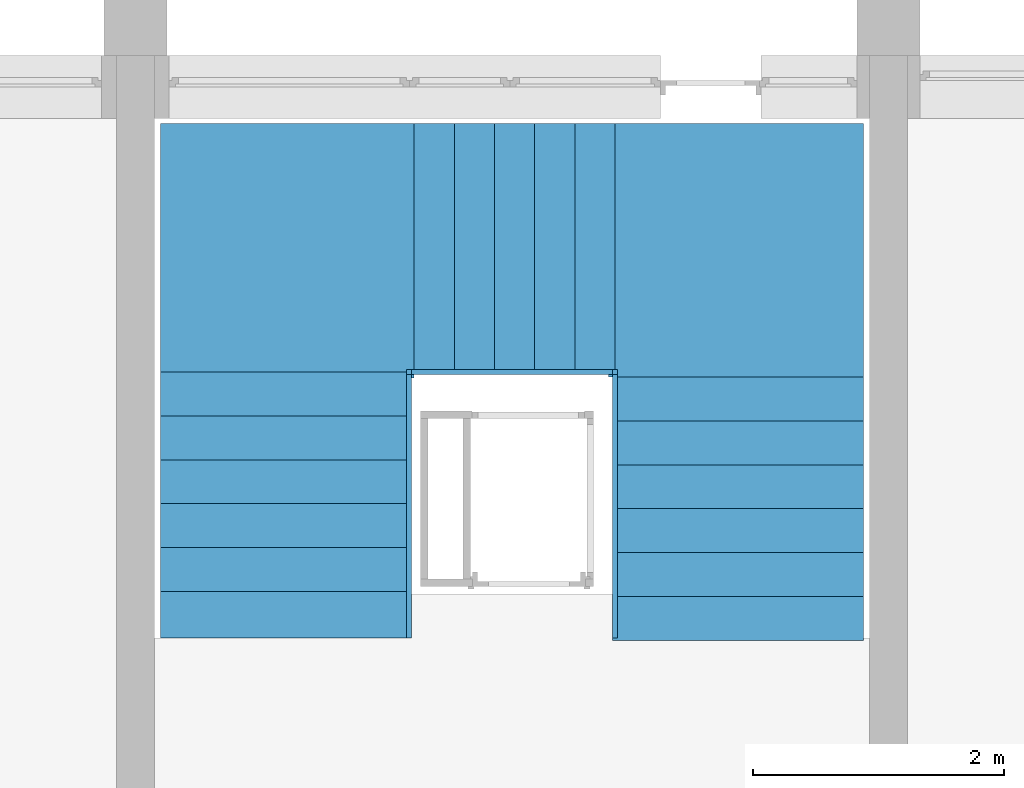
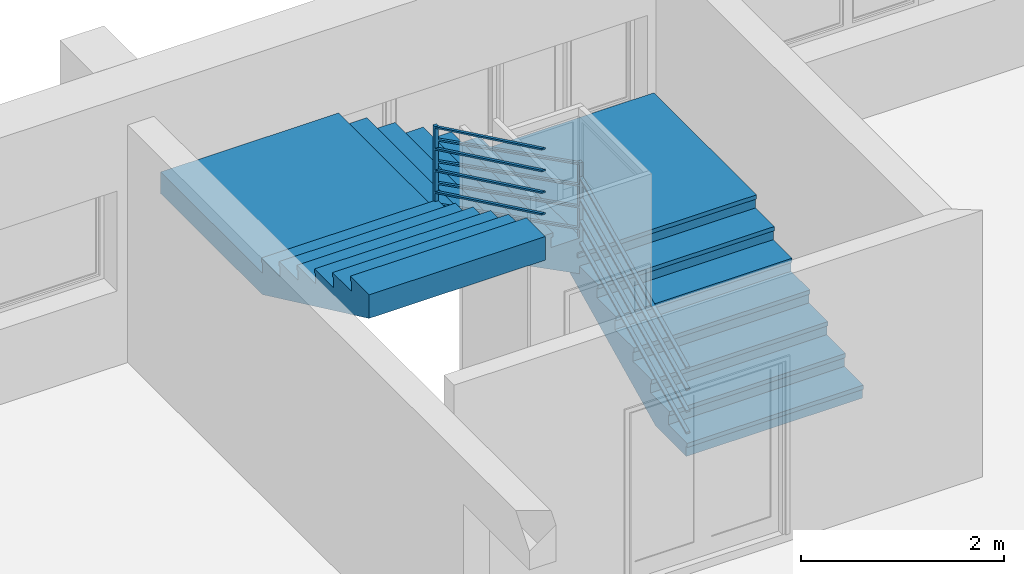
# One storey, part 10 of 10: 1 stair.
"""IFC2X3 building model written with IfcOpenShell, lengths in millimetres."""

from ifc_helpers import new_model, entity, si_unit, converted_unit, money_unit, direction, frame, origin_with_axes, place, context, subcontext, project, spatial, faceted_brep, material, element, save


model = new_model("IFC2X3")

# Units and contexts
model_context = context("Model", 3, precision=1e-05, world=origin_with_axes(), true_north=direction((0.0, 1.0)))
body_context = subcontext(model_context, "Body", "Model", "MODEL_VIEW")
ifc_project = project(units=[si_unit("LENGTHUNIT", "METRE", prefix="MILLI"), si_unit("AREAUNIT", "SQUARE_METRE"), si_unit("VOLUMEUNIT", "CUBIC_METRE"), converted_unit("PLANEANGLEUNIT", "DEGREE", entity("IfcPlaneAngleMeasure", 0.0174532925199), si_unit("PLANEANGLEUNIT", "RADIAN"), dimensions=[0, 0, 0, 0, 0, 0, 0]), si_unit("SOLIDANGLEUNIT", "STERADIAN"), money_unit("USD"), converted_unit("TIMEUNIT", "Year", entity("IfcTimeMeasure", 31556926.0), si_unit("TIMEUNIT", "SECOND"), dimensions=[0, 0, 0, 0, 0, 0, 0]), si_unit("MASSUNIT", "GRAM"), si_unit("THERMODYNAMICTEMPERATUREUNIT", "DEGREE_CELSIUS"), si_unit("LUMINOUSINTENSITYUNIT", "LUMEN")], contexts=[model_context])

# Site, building, storey
site_placement = place(None, origin_with_axes())
site = spatial("IfcSite", under=ifc_project, at=site_placement, Name="Site", CompositionType="ELEMENT")
building_placement = place(site_placement, origin_with_axes())
building = spatial("IfcBuilding", under=site, at=building_placement, Name="Building", CompositionType="ELEMENT")
storey_placement = place(building_placement, origin_with_axes())
storey = spatial("IfcBuildingStorey", under=building, at=storey_placement, Name="2KORRUS", CompositionType="ELEMENT", Elevation=0.0)

# Stair
ifc_material = material(Name="25 %")
stair_placement = place(storey_placement, frame((-6340.29670331, -9280.64352695, 0.0), z_axis=(0.0, 0.0, 1.0), x_axis=(1.0, 0.0, 0.0)))
element("IfcStair", 1, at=stair_placement, inside=storey, material=ifc_material, Name="TRE3", ObjectType="TRE3", ShapeType="NOTDEFINED", context=body_context, shape_type="Brep", body=[
    faceted_brep([(0.0, 599.615, 0.0), (-2000.0, 599.615, 0.0), (-2000.0, 2497.898, 918.947), (0.0, 2497.898, 918.947), (0.0, 30.0, 0.0), (-2000.0, 30.0, 0.0), (-2000.0, 30.0, 118.421), (-2000.0, 380.0, 118.421), (-2000.0, 380.0, 286.842), (-2000.0, 730.0, 286.842), (-2000.0, 730.0, 455.263), (-2000.0, 1080.0, 455.263), (-2000.0, 1080.0, 623.684), (-2000.0, 1430.0, 623.684), (-2000.0, 1430.0, 792.105), (-2000.0, 1780.0, 792.105), (-2000.0, 1780.0, 960.526), (-2000.0, 2130.0, 960.526), (-2000.0, 2130.0, 918.947), (0.0, 2130.0, 918.947), (0.0, 2130.0, 960.526), (0.0, 1780.0, 960.526), (0.0, 1780.0, 792.105), (0.0, 1430.0, 792.105), (0.0, 1430.0, 623.684), (0.0, 1080.0, 623.684), (0.0, 1080.0, 455.263), (0.0, 730.0, 455.263), (0.0, 730.0, 286.842), (0.0, 380.0, 286.842), (0.0, 380.0, 118.421), (0.0, 30.0, 118.421)], [[[0, 1, 2, 3]], [[4, 5, 1, 0]], [[1, 5, 6, 7, 8, 9, 10, 11, 12, 13, 14, 15, 16, 17, 18, 2]], [[3, 2, 18, 19]], [[0, 3, 19, 20, 21, 22, 23, 24, 25, 26, 27, 28, 29, 30, 31, 4]], [[31, 6, 5, 4]], [[30, 7, 6, 31]], [[29, 8, 7, 30]], [[28, 9, 8, 29]], [[27, 10, 9, 28]], [[26, 11, 10, 27]], [[25, 12, 11, 26]], [[24, 13, 12, 25]], [[23, 14, 13, 24]], [[22, 15, 14, 23]], [[21, 16, 15, 22]], [[20, 17, 16, 21]], [[19, 18, 17, 20]]]),
    faceted_brep([(0.0, 0.0, 0.0), (-2000.0, 0.0, 0.0), (-2000.0, 30.0, 0.0), (0.0, 30.0, 0.0), (0.0, 0.0, 118.421), (-2000.0, 0.0, 118.421), (-2000.0, 30.0, 118.421), (0.0, 30.0, 118.421)], [[[0, 1, 2, 3]], [[4, 5, 1, 0]], [[1, 5, 6, 2]], [[3, 2, 6, 7]], [[0, 3, 7, 4]], [[7, 6, 5, 4]]]),
    faceted_brep([(0.0, 350.0, 168.421), (-2000.0, 350.0, 168.421), (-2000.0, 380.0, 168.421), (0.0, 380.0, 168.421), (0.0, 350.0, 286.842), (-2000.0, 350.0, 286.842), (-2000.0, 380.0, 286.842), (0.0, 380.0, 286.842)], [[[0, 1, 2, 3]], [[4, 5, 1, 0]], [[1, 5, 6, 2]], [[3, 2, 6, 7]], [[0, 3, 7, 4]], [[7, 6, 5, 4]]]),
    faceted_brep([(0.0, 700.0, 336.842), (-2000.0, 700.0, 336.842), (-2000.0, 730.0, 336.842), (0.0, 730.0, 336.842), (0.0, 700.0, 455.263), (-2000.0, 700.0, 455.263), (-2000.0, 730.0, 455.263), (0.0, 730.0, 455.263)], [[[0, 1, 2, 3]], [[4, 5, 1, 0]], [[1, 5, 6, 2]], [[3, 2, 6, 7]], [[0, 3, 7, 4]], [[7, 6, 5, 4]]]),
    faceted_brep([(0.0, 1050.0, 505.263), (-2000.0, 1050.0, 505.263), (-2000.0, 1080.0, 505.263), (0.0, 1080.0, 505.263), (0.0, 1050.0, 623.684), (-2000.0, 1050.0, 623.684), (-2000.0, 1080.0, 623.684), (0.0, 1080.0, 623.684)], [[[0, 1, 2, 3]], [[4, 5, 1, 0]], [[1, 5, 6, 2]], [[3, 2, 6, 7]], [[0, 3, 7, 4]], [[7, 6, 5, 4]]]),
    faceted_brep([(0.0, 1400.0, 673.684), (-2000.0, 1400.0, 673.684), (-2000.0, 1430.0, 673.684), (0.0, 1430.0, 673.684), (0.0, 1400.0, 792.105), (-2000.0, 1400.0, 792.105), (-2000.0, 1430.0, 792.105), (0.0, 1430.0, 792.105)], [[[0, 1, 2, 3]], [[4, 5, 1, 0]], [[1, 5, 6, 2]], [[3, 2, 6, 7]], [[0, 3, 7, 4]], [[7, 6, 5, 4]]]),
    faceted_brep([(0.0, 1750.0, 842.105), (-2000.0, 1750.0, 842.105), (-2000.0, 1780.0, 842.105), (0.0, 1780.0, 842.105), (0.0, 1750.0, 960.526), (-2000.0, 1750.0, 960.526), (-2000.0, 1780.0, 960.526), (0.0, 1780.0, 960.526)], [[[0, 1, 2, 3]], [[4, 5, 1, 0]], [[1, 5, 6, 2]], [[3, 2, 6, 7]], [[0, 3, 7, 4]], [[7, 6, 5, 4]]]),
    faceted_brep([(0.0, 2100.0, 1010.526), (-2000.0, 2100.0, 1010.526), (-2000.0, 2130.0, 1010.526), (0.0, 2130.0, 1010.526), (0.0, 2100.0, 1128.947), (-2000.0, 2100.0, 1128.947), (-2000.0, 2130.0, 1128.947), (0.0, 2130.0, 1128.947)], [[[0, 1, 2, 3]], [[4, 5, 1, 0]], [[1, 5, 6, 2]], [[3, 2, 6, 7]], [[0, 3, 7, 4]], [[7, 6, 5, 4]]]),
    faceted_brep([(0.0, 2130.0, 918.947), (0.0, 2130.0, 960.526), (-2000.0, 2130.0, 960.526), (-2000.0, 2130.0, 918.947), (0.0, 2497.898, 918.947), (0.0, 2497.898, 960.526), (0.0, 4100.0, 960.526), (-2000.0, 4100.0, 960.526), (-2000.0, 2497.898, 960.526), (-2000.0, 2497.898, 918.947), (-2000.0, 4100.0, 918.947), (0.0, 4100.0, 918.947)], [[[0, 1, 2, 3]], [[4, 5, 1, 0]], [[1, 5, 6, 7, 8, 2]], [[3, 2, 8, 9]], [[0, 3, 9, 10, 11, 4]], [[11, 6, 5, 4]], [[10, 7, 6, 11]], [[9, 8, 7, 10]]]),
    faceted_brep([(0.0, 2130.0, 960.526), (0.0, 2130.0, 1128.947), (-2000.0, 2130.0, 1128.947), (-2000.0, 2130.0, 960.526), (0.0, 4100.0, 960.526), (0.0, 4100.0, 1128.947), (-2000.0, 4100.0, 1128.947), (-2000.0, 4100.0, 960.526)], [[[0, 1, 2, 3]], [[4, 5, 1, 0]], [[1, 5, 6, 2]], [[3, 2, 6, 7]], [[0, 3, 7, 4]], [[7, 6, 5, 4]]]),
    faceted_brep([(-3967.898, 4100.0, 1929.474), (-3967.898, 2100.0, 1929.474), (-3630.0, 2100.0, 1929.474), (-3630.0, 4100.0, 1929.474), (-2000.0, 4100.0, 918.947), (-2000.0, 2100.0, 918.947), (-2000.0, 2100.0, 1128.947), (-2030.0, 2100.0, 1128.947), (-2030.0, 2100.0, 1297.368), (-2350.0, 2100.0, 1297.368), (-2350.0, 2100.0, 1465.789), (-2670.0, 2100.0, 1465.789), (-2670.0, 2100.0, 1634.211), (-2990.0, 2100.0, 1634.211), (-2990.0, 2100.0, 1802.632), (-3310.0, 2100.0, 1802.632), (-3310.0, 2100.0, 1971.053), (-3630.0, 2100.0, 1971.053), (-3630.0, 4100.0, 1971.053), (-3310.0, 4100.0, 1971.053), (-3310.0, 4100.0, 1802.632), (-2990.0, 4100.0, 1802.632), (-2990.0, 4100.0, 1634.211), (-2670.0, 4100.0, 1634.211), (-2670.0, 4100.0, 1465.789), (-2350.0, 4100.0, 1465.789), (-2350.0, 4100.0, 1297.368), (-2030.0, 4100.0, 1297.368), (-2030.0, 4100.0, 1128.947), (-2000.0, 4100.0, 1128.947)], [[[0, 1, 2, 3]], [[4, 5, 1, 0]], [[1, 5, 6, 7, 8, 9, 10, 11, 12, 13, 14, 15, 16, 17, 2]], [[3, 2, 17, 18]], [[0, 3, 18, 19, 20, 21, 22, 23, 24, 25, 26, 27, 28, 29, 4]], [[29, 6, 5, 4]], [[28, 7, 6, 29]], [[27, 8, 7, 28]], [[26, 9, 8, 27]], [[25, 10, 9, 26]], [[24, 11, 10, 25]], [[23, 12, 11, 24]], [[22, 13, 12, 23]], [[21, 14, 13, 22]], [[20, 15, 14, 21]], [[19, 16, 15, 20]], [[18, 17, 16, 19]]]),
    faceted_brep([(-2000.0, 4100.0, 1178.947), (-2000.0, 2100.0, 1178.947), (-2030.0, 2100.0, 1178.947), (-2030.0, 4100.0, 1178.947), (-2000.0, 4100.0, 1297.368), (-2000.0, 2100.0, 1297.368), (-2030.0, 2100.0, 1297.368), (-2030.0, 4100.0, 1297.368)], [[[0, 1, 2, 3]], [[4, 5, 1, 0]], [[1, 5, 6, 2]], [[3, 2, 6, 7]], [[0, 3, 7, 4]], [[7, 6, 5, 4]]]),
    faceted_brep([(-2320.0, 4100.0, 1347.368), (-2320.0, 2100.0, 1347.368), (-2350.0, 2100.0, 1347.368), (-2350.0, 4100.0, 1347.368), (-2320.0, 4100.0, 1465.789), (-2320.0, 2100.0, 1465.789), (-2350.0, 2100.0, 1465.789), (-2350.0, 4100.0, 1465.789)], [[[0, 1, 2, 3]], [[4, 5, 1, 0]], [[1, 5, 6, 2]], [[3, 2, 6, 7]], [[0, 3, 7, 4]], [[7, 6, 5, 4]]]),
    faceted_brep([(-2640.0, 4100.0, 1515.789), (-2640.0, 2100.0, 1515.789), (-2670.0, 2100.0, 1515.789), (-2670.0, 4100.0, 1515.789), (-2640.0, 4100.0, 1634.211), (-2640.0, 2100.0, 1634.211), (-2670.0, 2100.0, 1634.211), (-2670.0, 4100.0, 1634.211)], [[[0, 1, 2, 3]], [[4, 5, 1, 0]], [[1, 5, 6, 2]], [[3, 2, 6, 7]], [[0, 3, 7, 4]], [[7, 6, 5, 4]]]),
    faceted_brep([(-2960.0, 4100.0, 1684.211), (-2960.0, 2100.0, 1684.211), (-2990.0, 2100.0, 1684.211), (-2990.0, 4100.0, 1684.211), (-2960.0, 4100.0, 1802.632), (-2960.0, 2100.0, 1802.632), (-2990.0, 2100.0, 1802.632), (-2990.0, 4100.0, 1802.632)], [[[0, 1, 2, 3]], [[4, 5, 1, 0]], [[1, 5, 6, 2]], [[3, 2, 6, 7]], [[0, 3, 7, 4]], [[7, 6, 5, 4]]]),
    faceted_brep([(-3280.0, 4100.0, 1852.632), (-3280.0, 2100.0, 1852.632), (-3310.0, 2100.0, 1852.632), (-3310.0, 4100.0, 1852.632), (-3280.0, 4100.0, 1971.053), (-3280.0, 2100.0, 1971.053), (-3310.0, 2100.0, 1971.053), (-3310.0, 4100.0, 1971.053)], [[[0, 1, 2, 3]], [[4, 5, 1, 0]], [[1, 5, 6, 2]], [[3, 2, 6, 7]], [[0, 3, 7, 4]], [[7, 6, 5, 4]]]),
    faceted_brep([(-3600.0, 4100.0, 2021.053), (-3600.0, 2100.0, 2021.053), (-3630.0, 2100.0, 2021.053), (-3630.0, 4100.0, 2021.053), (-3600.0, 4100.0, 2139.474), (-3600.0, 2100.0, 2139.474), (-3630.0, 2100.0, 2139.474), (-3630.0, 4100.0, 2139.474)], [[[0, 1, 2, 3]], [[4, 5, 1, 0]], [[1, 5, 6, 2]], [[3, 2, 6, 7]], [[0, 3, 7, 4]], [[7, 6, 5, 4]]]),
    faceted_brep([(-3630.0, 4100.0, 1929.474), (-3630.0, 4100.0, 1971.053), (-3630.0, 2100.0, 1971.053), (-3630.0, 2100.0, 1929.474), (-3950.0, 4100.0, 1929.474), (-3950.0, 4100.0, 1971.053), (-5600.0, 4100.0, 1971.053), (-5600.0, 2100.0, 1971.053), (-3950.0, 2100.0, 1971.053), (-3950.0, 2100.0, 1929.474), (-5600.0, 2100.0, 1929.474), (-5600.0, 4100.0, 1929.474)], [[[0, 1, 2, 3]], [[4, 5, 1, 0]], [[1, 5, 6, 7, 8, 2]], [[3, 2, 8, 9]], [[0, 3, 9, 10, 11, 4]], [[11, 6, 5, 4]], [[10, 7, 6, 11]], [[9, 8, 7, 10]]]),
    faceted_brep([(-3630.0, 4100.0, 1971.053), (-3630.0, 4100.0, 2139.474), (-3630.0, 2100.0, 2139.474), (-3630.0, 2100.0, 1971.053), (-5600.0, 4100.0, 1971.053), (-5600.0, 4100.0, 2139.474), (-5600.0, 2100.0, 2139.474), (-5600.0, 2100.0, 1971.053)], [[[0, 1, 2, 3]], [[4, 5, 1, 0]], [[1, 5, 6, 2]], [[3, 2, 6, 7]], [[0, 3, 7, 4]], [[7, 6, 5, 4]]]),
    faceted_brep([(-5600.0, 0.0, 2916.951), (-3600.0, 0.0, 2916.951), (-3600.0, 0.0, 3150.0), (-5600.0, 0.0, 3150.0), (-5600.0, 2100.0, 1929.474), (-3600.0, 2100.0, 1929.474), (-3600.0, 2100.0, 2139.474), (-3600.0, 2070.0, 2139.474), (-3600.0, 2070.0, 2307.895), (-3600.0, 1720.0, 2307.895), (-3600.0, 1720.0, 2476.316), (-3600.0, 1370.0, 2476.316), (-3600.0, 1370.0, 2644.737), (-3600.0, 1020.0, 2644.737), (-3600.0, 1020.0, 2813.158), (-3600.0, 670.0, 2813.158), (-3600.0, 670.0, 2981.579), (-3600.0, 320.0, 2981.579), (-3600.0, 320.0, 3150.0), (-5600.0, 320.0, 3150.0), (-5600.0, 320.0, 2981.579), (-5600.0, 670.0, 2981.579), (-5600.0, 670.0, 2813.158), (-5600.0, 1020.0, 2813.158), (-5600.0, 1020.0, 2644.737), (-5600.0, 1370.0, 2644.737), (-5600.0, 1370.0, 2476.316), (-5600.0, 1720.0, 2476.316), (-5600.0, 1720.0, 2307.895), (-5600.0, 2070.0, 2307.895), (-5600.0, 2070.0, 2139.474), (-5600.0, 2100.0, 2139.474)], [[[0, 1, 2, 3]], [[4, 5, 1, 0]], [[1, 5, 6, 7, 8, 9, 10, 11, 12, 13, 14, 15, 16, 17, 18, 2]], [[3, 2, 18, 19]], [[0, 3, 19, 20, 21, 22, 23, 24, 25, 26, 27, 28, 29, 30, 31, 4]], [[31, 6, 5, 4]], [[30, 7, 6, 31]], [[29, 8, 7, 30]], [[28, 9, 8, 29]], [[27, 10, 9, 28]], [[26, 11, 10, 27]], [[25, 12, 11, 26]], [[24, 13, 12, 25]], [[23, 14, 13, 24]], [[22, 15, 14, 23]], [[21, 16, 15, 22]], [[20, 17, 16, 21]], [[19, 18, 17, 20]]]),
    faceted_brep([(-5600.0, 2100.0, 2189.474), (-3600.0, 2100.0, 2189.474), (-3600.0, 2070.0, 2189.474), (-5600.0, 2070.0, 2189.474), (-5600.0, 2100.0, 2307.895), (-3600.0, 2100.0, 2307.895), (-3600.0, 2070.0, 2307.895), (-5600.0, 2070.0, 2307.895)], [[[0, 1, 2, 3]], [[4, 5, 1, 0]], [[1, 5, 6, 2]], [[3, 2, 6, 7]], [[0, 3, 7, 4]], [[7, 6, 5, 4]]]),
    faceted_brep([(-5600.0, 1750.0, 2357.895), (-3600.0, 1750.0, 2357.895), (-3600.0, 1720.0, 2357.895), (-5600.0, 1720.0, 2357.895), (-5600.0, 1750.0, 2476.316), (-3600.0, 1750.0, 2476.316), (-3600.0, 1720.0, 2476.316), (-5600.0, 1720.0, 2476.316)], [[[0, 1, 2, 3]], [[4, 5, 1, 0]], [[1, 5, 6, 2]], [[3, 2, 6, 7]], [[0, 3, 7, 4]], [[7, 6, 5, 4]]]),
    faceted_brep([(-5600.0, 1400.0, 2526.316), (-3600.0, 1400.0, 2526.316), (-3600.0, 1370.0, 2526.316), (-5600.0, 1370.0, 2526.316), (-5600.0, 1400.0, 2644.737), (-3600.0, 1400.0, 2644.737), (-3600.0, 1370.0, 2644.737), (-5600.0, 1370.0, 2644.737)], [[[0, 1, 2, 3]], [[4, 5, 1, 0]], [[1, 5, 6, 2]], [[3, 2, 6, 7]], [[0, 3, 7, 4]], [[7, 6, 5, 4]]]),
    faceted_brep([(-5600.0, 1050.0, 2694.737), (-3600.0, 1050.0, 2694.737), (-3600.0, 1020.0, 2694.737), (-5600.0, 1020.0, 2694.737), (-5600.0, 1050.0, 2813.158), (-3600.0, 1050.0, 2813.158), (-3600.0, 1020.0, 2813.158), (-5600.0, 1020.0, 2813.158)], [[[0, 1, 2, 3]], [[4, 5, 1, 0]], [[1, 5, 6, 2]], [[3, 2, 6, 7]], [[0, 3, 7, 4]], [[7, 6, 5, 4]]]),
    faceted_brep([(-5600.0, 700.0, 2863.158), (-3600.0, 700.0, 2863.158), (-3600.0, 670.0, 2863.158), (-5600.0, 670.0, 2863.158), (-5600.0, 700.0, 2981.579), (-3600.0, 700.0, 2981.579), (-3600.0, 670.0, 2981.579), (-5600.0, 670.0, 2981.579)], [[[0, 1, 2, 3]], [[4, 5, 1, 0]], [[1, 5, 6, 2]], [[3, 2, 6, 7]], [[0, 3, 7, 4]], [[7, 6, 5, 4]]]),
    faceted_brep([(-5600.0, 350.0, 3031.579), (-3600.0, 350.0, 3031.579), (-3600.0, 320.0, 3031.579), (-5600.0, 320.0, 3031.579), (-5600.0, 350.0, 3150.0), (-3600.0, 350.0, 3150.0), (-3600.0, 320.0, 3150.0), (-5600.0, 320.0, 3150.0)], [[[0, 1, 2, 3]], [[4, 5, 1, 0]], [[1, 5, 6, 2]], [[3, 2, 6, 7]], [[0, 3, 7, 4]], [[7, 6, 5, 4]]]),
    faceted_brep([(-2000.0, -20.0, 118.421), (-2000.0, 380.0, 118.421), (0.0, 380.0, 118.421), (0.0, -20.0, 118.421), (-2000.0, -20.0, 168.421), (-2000.0, 380.0, 168.421), (0.0, 380.0, 168.421), (0.0, -20.0, 168.421)], [[[0, 1, 2, 3]], [[0, 4, 5, 1]], [[1, 5, 6, 2]], [[2, 6, 7, 3]], [[3, 7, 4, 0]], [[7, 6, 5, 4]]]),
    faceted_brep([(-2000.0, 330.0, 286.842), (-2000.0, 730.0, 286.842), (0.0, 730.0, 286.842), (0.0, 330.0, 286.842), (-2000.0, 330.0, 336.842), (-2000.0, 730.0, 336.842), (0.0, 730.0, 336.842), (0.0, 330.0, 336.842)], [[[0, 1, 2, 3]], [[0, 4, 5, 1]], [[1, 5, 6, 2]], [[2, 6, 7, 3]], [[3, 7, 4, 0]], [[7, 6, 5, 4]]]),
    faceted_brep([(-2000.0, 680.0, 455.263), (-2000.0, 1080.0, 455.263), (0.0, 1080.0, 455.263), (0.0, 680.0, 455.263), (-2000.0, 680.0, 505.263), (-2000.0, 1080.0, 505.263), (0.0, 1080.0, 505.263), (0.0, 680.0, 505.263)], [[[0, 1, 2, 3]], [[0, 4, 5, 1]], [[1, 5, 6, 2]], [[2, 6, 7, 3]], [[3, 7, 4, 0]], [[7, 6, 5, 4]]]),
    faceted_brep([(-2000.0, 1030.0, 623.684), (-2000.0, 1430.0, 623.684), (0.0, 1430.0, 623.684), (0.0, 1030.0, 623.684), (-2000.0, 1030.0, 673.684), (-2000.0, 1430.0, 673.684), (0.0, 1430.0, 673.684), (0.0, 1030.0, 673.684)], [[[0, 1, 2, 3]], [[0, 4, 5, 1]], [[1, 5, 6, 2]], [[2, 6, 7, 3]], [[3, 7, 4, 0]], [[7, 6, 5, 4]]]),
    faceted_brep([(-2000.0, 1380.0, 792.105), (-2000.0, 1780.0, 792.105), (0.0, 1780.0, 792.105), (0.0, 1380.0, 792.105), (-2000.0, 1380.0, 842.105), (-2000.0, 1780.0, 842.105), (0.0, 1780.0, 842.105), (0.0, 1380.0, 842.105)], [[[0, 1, 2, 3]], [[0, 4, 5, 1]], [[1, 5, 6, 2]], [[2, 6, 7, 3]], [[3, 7, 4, 0]], [[7, 6, 5, 4]]]),
    faceted_brep([(-2000.0, 1730.0, 960.526), (-2000.0, 2130.0, 960.526), (0.0, 2130.0, 960.526), (0.0, 1730.0, 960.526), (-2000.0, 1730.0, 1010.526), (-2000.0, 2130.0, 1010.526), (0.0, 2130.0, 1010.526), (0.0, 1730.0, 1010.526)], [[[0, 1, 2, 3]], [[0, 4, 5, 1]], [[1, 5, 6, 2]], [[2, 6, 7, 3]], [[3, 7, 4, 0]], [[7, 6, 5, 4]]]),
    faceted_brep([(-2030.0, 2080.0, 1128.947), (-2030.0, 4100.0, 1128.947), (0.0, 4100.0, 1128.947), (0.0, 2080.0, 1128.947), (-2030.0, 2080.0, 1178.947), (-2030.0, 4100.0, 1178.947), (0.0, 4100.0, 1178.947), (0.0, 2080.0, 1178.947)], [[[0, 1, 2, 3]], [[0, 4, 5, 1]], [[1, 5, 6, 2]], [[2, 6, 7, 3]], [[3, 7, 4, 0]], [[7, 6, 5, 4]]]),
    faceted_brep([(-1980.0, 2100.0, 1297.368), (-2350.0, 2100.0, 1297.368), (-2350.0, 4100.0, 1297.368), (-1980.0, 4100.0, 1297.368), (-1980.0, 2100.0, 1347.368), (-2350.0, 2100.0, 1347.368), (-2350.0, 4100.0, 1347.368), (-1980.0, 4100.0, 1347.368)], [[[0, 1, 2, 3]], [[0, 4, 5, 1]], [[1, 5, 6, 2]], [[2, 6, 7, 3]], [[3, 7, 4, 0]], [[7, 6, 5, 4]]]),
    faceted_brep([(-2300.0, 2100.0, 1465.789), (-2670.0, 2100.0, 1465.789), (-2670.0, 4100.0, 1465.789), (-2300.0, 4100.0, 1465.789), (-2300.0, 2100.0, 1515.789), (-2670.0, 2100.0, 1515.789), (-2670.0, 4100.0, 1515.789), (-2300.0, 4100.0, 1515.789)], [[[0, 1, 2, 3]], [[0, 4, 5, 1]], [[1, 5, 6, 2]], [[2, 6, 7, 3]], [[3, 7, 4, 0]], [[7, 6, 5, 4]]]),
    faceted_brep([(-2620.0, 2100.0, 1634.211), (-2990.0, 2100.0, 1634.211), (-2990.0, 4100.0, 1634.211), (-2620.0, 4100.0, 1634.211), (-2620.0, 2100.0, 1684.211), (-2990.0, 2100.0, 1684.211), (-2990.0, 4100.0, 1684.211), (-2620.0, 4100.0, 1684.211)], [[[0, 1, 2, 3]], [[0, 4, 5, 1]], [[1, 5, 6, 2]], [[2, 6, 7, 3]], [[3, 7, 4, 0]], [[7, 6, 5, 4]]]),
    faceted_brep([(-2940.0, 2100.0, 1802.632), (-3310.0, 2100.0, 1802.632), (-3310.0, 4100.0, 1802.632), (-2940.0, 4100.0, 1802.632), (-2940.0, 2100.0, 1852.632), (-3310.0, 2100.0, 1852.632), (-3310.0, 4100.0, 1852.632), (-2940.0, 4100.0, 1852.632)], [[[0, 1, 2, 3]], [[0, 4, 5, 1]], [[1, 5, 6, 2]], [[2, 6, 7, 3]], [[3, 7, 4, 0]], [[7, 6, 5, 4]]]),
    faceted_brep([(-3260.0, 2100.0, 1971.053), (-3630.0, 2100.0, 1971.053), (-3630.0, 4100.0, 1971.053), (-3260.0, 4100.0, 1971.053), (-3260.0, 2100.0, 2021.053), (-3630.0, 2100.0, 2021.053), (-3630.0, 4100.0, 2021.053), (-3260.0, 4100.0, 2021.053)], [[[0, 1, 2, 3]], [[0, 4, 5, 1]], [[1, 5, 6, 2]], [[2, 6, 7, 3]], [[3, 7, 4, 0]], [[7, 6, 5, 4]]]),
    faceted_brep([(-5600.0, 2070.0, 2139.474), (-5600.0, 4100.0, 2139.474), (-3580.0, 4100.0, 2139.474), (-3580.0, 2070.0, 2139.474), (-5600.0, 2070.0, 2189.474), (-5600.0, 4100.0, 2189.474), (-3580.0, 4100.0, 2189.474), (-3580.0, 2070.0, 2189.474)], [[[0, 1, 2, 3]], [[0, 4, 5, 1]], [[1, 5, 6, 2]], [[2, 6, 7, 3]], [[3, 7, 4, 0]], [[7, 6, 5, 4]]]),
    faceted_brep([(-3600.0, 2120.0, 2307.895), (-3600.0, 1720.0, 2307.895), (-5600.0, 1720.0, 2307.895), (-5600.0, 2120.0, 2307.895), (-3600.0, 2120.0, 2357.895), (-3600.0, 1720.0, 2357.895), (-5600.0, 1720.0, 2357.895), (-5600.0, 2120.0, 2357.895)], [[[0, 1, 2, 3]], [[0, 4, 5, 1]], [[1, 5, 6, 2]], [[2, 6, 7, 3]], [[3, 7, 4, 0]], [[7, 6, 5, 4]]]),
    faceted_brep([(-3600.0, 1770.0, 2476.316), (-3600.0, 1370.0, 2476.316), (-5600.0, 1370.0, 2476.316), (-5600.0, 1770.0, 2476.316), (-3600.0, 1770.0, 2526.316), (-3600.0, 1370.0, 2526.316), (-5600.0, 1370.0, 2526.316), (-5600.0, 1770.0, 2526.316)], [[[0, 1, 2, 3]], [[0, 4, 5, 1]], [[1, 5, 6, 2]], [[2, 6, 7, 3]], [[3, 7, 4, 0]], [[7, 6, 5, 4]]]),
    faceted_brep([(-3600.0, 1420.0, 2644.737), (-3600.0, 1020.0, 2644.737), (-5600.0, 1020.0, 2644.737), (-5600.0, 1420.0, 2644.737), (-3600.0, 1420.0, 2694.737), (-3600.0, 1020.0, 2694.737), (-5600.0, 1020.0, 2694.737), (-5600.0, 1420.0, 2694.737)], [[[0, 1, 2, 3]], [[0, 4, 5, 1]], [[1, 5, 6, 2]], [[2, 6, 7, 3]], [[3, 7, 4, 0]], [[7, 6, 5, 4]]]),
    faceted_brep([(-3600.0, 1070.0, 2813.158), (-3600.0, 670.0, 2813.158), (-5600.0, 670.0, 2813.158), (-5600.0, 1070.0, 2813.158), (-3600.0, 1070.0, 2863.158), (-3600.0, 670.0, 2863.158), (-5600.0, 670.0, 2863.158), (-5600.0, 1070.0, 2863.158)], [[[0, 1, 2, 3]], [[0, 4, 5, 1]], [[1, 5, 6, 2]], [[2, 6, 7, 3]], [[3, 7, 4, 0]], [[7, 6, 5, 4]]]),
    faceted_brep([(-3600.0, 720.0, 2981.579), (-3600.0, 320.0, 2981.579), (-5600.0, 320.0, 2981.579), (-5600.0, 720.0, 2981.579), (-3600.0, 720.0, 3031.579), (-3600.0, 320.0, 3031.579), (-5600.0, 320.0, 3031.579), (-5600.0, 720.0, 3031.579)], [[[0, 1, 2, 3]], [[0, 4, 5, 1]], [[1, 5, 6, 2]], [[2, 6, 7, 3]], [[3, 7, 4, 0]], [[7, 6, 5, 4]]]),
    faceted_brep([(-3600.0, 370.0, 3150.0), (-3600.0, 0.0, 3150.0), (-5600.0, 0.0, 3150.0), (-5600.0, 370.0, 3150.0), (-3600.0, 370.0, 3200.0), (-3600.0, 0.0, 3200.0), (-5600.0, 0.0, 3200.0), (-5600.0, 370.0, 3200.0)], [[[0, 1, 2, 3]], [[0, 4, 5, 1]], [[1, 5, 6, 2]], [[2, 6, 7, 3]], [[3, 7, 4, 0]], [[7, 6, 5, 4]]]),
    faceted_brep([(-1960.0, 0.0, 268.421), (-2000.0, 0.0, 268.421), (-2000.0, 2100.0, 1278.947), (-1960.0, 2100.0, 1278.947), (-1960.0, 0.0, 288.421), (-2000.0, 0.0, 288.421), (-2000.0, 2100.0, 1298.947), (-1960.0, 2100.0, 1298.947)], [[[0, 1, 2, 3]], [[4, 5, 1, 0]], [[1, 5, 6, 2]], [[3, 2, 6, 7]], [[0, 3, 7, 4]], [[7, 6, 5, 4]]]),
    faceted_brep([(-1960.0, 0.0, 528.421), (-2000.0, 0.0, 528.421), (-2000.0, 2100.0, 1538.947), (-1960.0, 2100.0, 1538.947), (-1960.0, 0.0, 548.421), (-2000.0, 0.0, 548.421), (-2000.0, 2100.0, 1558.947), (-1960.0, 2100.0, 1558.947)], [[[0, 1, 2, 3]], [[4, 5, 1, 0]], [[1, 5, 6, 2]], [[3, 2, 6, 7]], [[0, 3, 7, 4]], [[7, 6, 5, 4]]]),
    faceted_brep([(-1960.0, 0.0, 788.421), (-2000.0, 0.0, 788.421), (-2000.0, 2100.0, 1798.947), (-1960.0, 2100.0, 1798.947), (-1960.0, 0.0, 808.421), (-2000.0, 0.0, 808.421), (-2000.0, 2100.0, 1818.947), (-1960.0, 2100.0, 1818.947)], [[[0, 1, 2, 3]], [[4, 5, 1, 0]], [[1, 5, 6, 2]], [[3, 2, 6, 7]], [[0, 3, 7, 4]], [[7, 6, 5, 4]]]),
    faceted_brep([(-1960.0, 0.0, 1048.421), (-2000.0, 0.0, 1048.421), (-2000.0, 2100.0, 2058.947), (-1960.0, 2100.0, 2058.947), (-1960.0, 0.0, 1068.421), (-2000.0, 0.0, 1068.421), (-2000.0, 2100.0, 2078.947), (-1960.0, 2100.0, 2078.947)], [[[0, 1, 2, 3]], [[4, 5, 1, 0]], [[1, 5, 6, 2]], [[3, 2, 6, 7]], [[0, 3, 7, 4]], [[7, 6, 5, 4]]]),
    faceted_brep([(-2000.0, 2100.0, 1178.947), (-2000.0, 2140.0, 1178.947), (-1960.0, 2140.0, 1178.947), (-1960.0, 2100.0, 1178.947), (-2000.0, 2100.0, 2247.368), (-2000.0, 2140.0, 2247.368), (-1960.0, 2140.0, 2247.368), (-1960.0, 2100.0, 2247.368)], [[[0, 1, 2, 3]], [[0, 4, 5, 1]], [[1, 5, 6, 2]], [[2, 6, 7, 3]], [[3, 7, 4, 0]], [[7, 6, 5, 4]]]),
    faceted_brep([(-2000.0, 2140.0, 1447.368), (-2000.0, 2100.0, 1447.368), (-3600.0, 2100.0, 2289.474), (-3600.0, 2140.0, 2289.474), (-2000.0, 2140.0, 1467.368), (-2000.0, 2100.0, 1467.368), (-3600.0, 2100.0, 2309.474), (-3600.0, 2140.0, 2309.474)], [[[0, 1, 2, 3]], [[4, 5, 1, 0]], [[1, 5, 6, 2]], [[3, 2, 6, 7]], [[0, 3, 7, 4]], [[7, 6, 5, 4]]]),
    faceted_brep([(-2000.0, 2140.0, 1707.368), (-2000.0, 2100.0, 1707.368), (-3600.0, 2100.0, 2549.474), (-3600.0, 2140.0, 2549.474), (-2000.0, 2140.0, 1727.368), (-2000.0, 2100.0, 1727.368), (-3600.0, 2100.0, 2569.474), (-3600.0, 2140.0, 2569.474)], [[[0, 1, 2, 3]], [[4, 5, 1, 0]], [[1, 5, 6, 2]], [[3, 2, 6, 7]], [[0, 3, 7, 4]], [[7, 6, 5, 4]]]),
    faceted_brep([(-2000.0, 2140.0, 1967.368), (-2000.0, 2100.0, 1967.368), (-3600.0, 2100.0, 2809.474), (-3600.0, 2140.0, 2809.474), (-2000.0, 2140.0, 1987.368), (-2000.0, 2100.0, 1987.368), (-3600.0, 2100.0, 2829.474), (-3600.0, 2140.0, 2829.474)], [[[0, 1, 2, 3]], [[4, 5, 1, 0]], [[1, 5, 6, 2]], [[3, 2, 6, 7]], [[0, 3, 7, 4]], [[7, 6, 5, 4]]]),
    faceted_brep([(-2000.0, 2140.0, 2227.368), (-2000.0, 2100.0, 2227.368), (-3600.0, 2100.0, 3069.474), (-3600.0, 2140.0, 3069.474), (-2000.0, 2140.0, 2247.368), (-2000.0, 2100.0, 2247.368), (-3600.0, 2100.0, 3089.474), (-3600.0, 2140.0, 3089.474)], [[[0, 1, 2, 3]], [[4, 5, 1, 0]], [[1, 5, 6, 2]], [[3, 2, 6, 7]], [[0, 3, 7, 4]], [[7, 6, 5, 4]]]),
    faceted_brep([(-3640.0, 2100.0, 2189.474), (-3640.0, 2140.0, 2189.474), (-3600.0, 2140.0, 2189.474), (-3600.0, 2100.0, 2189.474), (-3640.0, 2100.0, 3257.895), (-3640.0, 2140.0, 3257.895), (-3600.0, 2140.0, 3257.895), (-3600.0, 2100.0, 3257.895)], [[[0, 1, 2, 3]], [[0, 4, 5, 1]], [[1, 5, 6, 2]], [[2, 6, 7, 3]], [[3, 7, 4, 0]], [[7, 6, 5, 4]]]),
    faceted_brep([(-3640.0, 2100.0, 2457.895), (-3600.0, 2100.0, 2457.895), (-3600.0, 0.0, 3468.421), (-3640.0, 0.0, 3468.421), (-3640.0, 2100.0, 2477.895), (-3600.0, 2100.0, 2477.895), (-3600.0, 0.0, 3488.421), (-3640.0, 0.0, 3488.421)], [[[0, 1, 2, 3]], [[4, 5, 1, 0]], [[1, 5, 6, 2]], [[3, 2, 6, 7]], [[0, 3, 7, 4]], [[7, 6, 5, 4]]]),
    faceted_brep([(-3640.0, 2100.0, 2717.895), (-3600.0, 2100.0, 2717.895), (-3600.0, 0.0, 3728.421), (-3640.0, 0.0, 3728.421), (-3640.0, 2100.0, 2737.895), (-3600.0, 2100.0, 2737.895), (-3600.0, 0.0, 3748.421), (-3640.0, 0.0, 3748.421)], [[[0, 1, 2, 3]], [[4, 5, 1, 0]], [[1, 5, 6, 2]], [[3, 2, 6, 7]], [[0, 3, 7, 4]], [[7, 6, 5, 4]]]),
    faceted_brep([(-3640.0, 2100.0, 2977.895), (-3600.0, 2100.0, 2977.895), (-3600.0, 0.0, 3988.421), (-3640.0, 0.0, 3988.421), (-3640.0, 2100.0, 2997.895), (-3600.0, 2100.0, 2997.895), (-3600.0, 0.0, 4008.421), (-3640.0, 0.0, 4008.421)], [[[0, 1, 2, 3]], [[4, 5, 1, 0]], [[1, 5, 6, 2]], [[3, 2, 6, 7]], [[0, 3, 7, 4]], [[7, 6, 5, 4]]]),
    faceted_brep([(-3640.0, 2100.0, 3237.895), (-3600.0, 2100.0, 3237.895), (-3600.0, 0.0, 4248.421), (-3640.0, 0.0, 4248.421), (-3640.0, 2100.0, 3257.895), (-3600.0, 2100.0, 3257.895), (-3600.0, 0.0, 4268.421), (-3640.0, 0.0, 4268.421)], [[[0, 1, 2, 3]], [[4, 5, 1, 0]], [[1, 5, 6, 2]], [[3, 2, 6, 7]], [[0, 3, 7, 4]], [[7, 6, 5, 4]]]),
])

save(model, "model.ifc")
